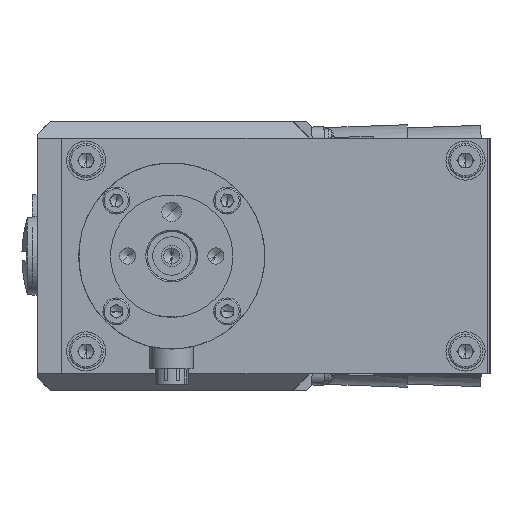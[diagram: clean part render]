
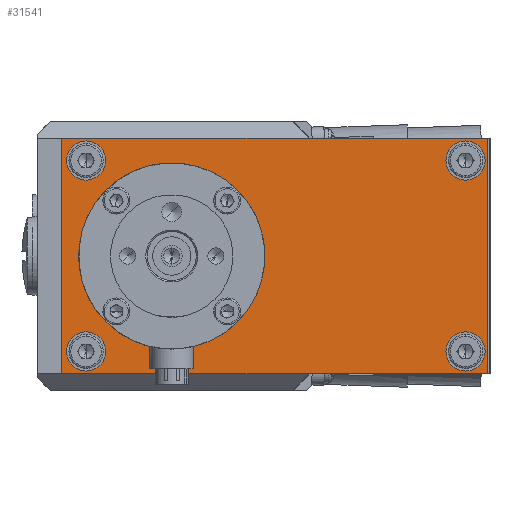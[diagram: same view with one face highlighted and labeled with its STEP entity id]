
A CAD part, left-side view. The second image highlights one B-rep face of the part: STEP entity #31541.
In plain terms, the highlighted planar face has unit normal (-1, 0, 0).
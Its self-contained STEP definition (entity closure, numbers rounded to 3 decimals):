
#35 = VERTEX_POINT ( 'NONE', #18627 ) ;
#552 = CIRCLE ( 'NONE', #66716, 4. ) ;
#1916 = CARTESIAN_POINT ( 'NONE',  ( -106.001, -27.621, -2.318 ) ) ;
#2034 = AXIS2_PLACEMENT_3D ( 'NONE', #56373, #62193, #35660 ) ;
#2378 = DIRECTION ( 'NONE',  ( -1., 0., 0. ) ) ;
#2799 = FACE_OUTER_BOUND ( 'NONE', #32510, .T. ) ;
#3202 = VERTEX_POINT ( 'NONE', #44117 ) ;
#4146 = ORIENTED_EDGE ( 'NONE', *, *, #62841, .T. ) ;
#5684 = DIRECTION ( 'NONE',  ( -1., 0., 0. ) ) ;
#6012 = FACE_BOUND ( 'NONE', #37094, .T. ) ;
#6124 = EDGE_LOOP ( 'NONE', ( #28443, #24928 ) ) ;
#6132 = EDGE_CURVE ( 'NONE', #22048, #64802, #62468, .T. ) ;
#6536 = LINE ( 'NONE', #58075, #21879 ) ;
#6748 = AXIS2_PLACEMENT_3D ( 'NONE', #1916, #7071, #12257 ) ;
#6840 = EDGE_LOOP ( 'NONE', ( #15270, #38200 ) ) ;
#7071 = DIRECTION ( 'NONE',  ( 1., 0., 0. ) ) ;
#7265 = EDGE_LOOP ( 'NONE', ( #41149, #62678 ) ) ;
#8091 = VERTEX_POINT ( 'NONE', #10618 ) ;
#8406 = CARTESIAN_POINT ( 'NONE',  ( -106.001, -23.121, 41.182 ) ) ;
#8961 = DIRECTION ( 'NONE',  ( 0., 0., 1. ) ) ;
#8974 = CARTESIAN_POINT ( 'NONE',  ( -106.001, -27.621, 45.682 ) ) ;
#10043 = AXIS2_PLACEMENT_3D ( 'NONE', #31636, #26291, #41545 ) ;
#10064 = CARTESIAN_POINT ( 'NONE',  ( -106.001, 59.379, 45.682 ) ) ;
#10112 = EDGE_CURVE ( 'NONE', #17920, #35, #552, .T. ) ;
#10600 = EDGE_CURVE ( 'NONE', #56178, #8091, #53619, .T. ) ;
#10618 = CARTESIAN_POINT ( 'NONE',  ( -106.001, -23.121, 37.182 ) ) ;
#10893 = VERTEX_POINT ( 'NONE', #13248 ) ;
#11819 = DIRECTION ( 'NONE',  ( -1., 0., 0. ) ) ;
#12038 = CARTESIAN_POINT ( 'NONE',  ( -106.001, 54.379, 41.182 ) ) ;
#12257 = DIRECTION ( 'NONE',  ( 0., 0., -1. ) ) ;
#12908 = VECTOR ( 'NONE', #31019, 1000. ) ;
#13042 = EDGE_CURVE ( 'NONE', #8091, #56178, #28296, .T. ) ;
#13094 = CIRCLE ( 'NONE', #24720, 15.5 ) ;
#13248 = CARTESIAN_POINT ( 'NONE',  ( -106.001, 36.879, 37.182 ) ) ;
#14477 = EDGE_CURVE ( 'NONE', #18860, #24761, #14534, .T. ) ;
#14534 = LINE ( 'NONE', #20731, #12908 ) ;
#14909 = ORIENTED_EDGE ( 'NONE', *, *, #41765, .F. ) ;
#15270 = ORIENTED_EDGE ( 'NONE', *, *, #44839, .F. ) ;
#15924 = EDGE_CURVE ( 'NONE', #65158, #21332, #47677, .T. ) ;
#16520 = FACE_BOUND ( 'NONE', #33238, .T. ) ;
#17920 = VERTEX_POINT ( 'NONE', #33979 ) ;
#18627 = CARTESIAN_POINT ( 'NONE',  ( -106.001, 54.379, 37.182 ) ) ;
#18860 = VERTEX_POINT ( 'NONE', #47532 ) ;
#19544 = CARTESIAN_POINT ( 'NONE',  ( -106.001, 36.879, 21.682 ) ) ;
#19745 = DIRECTION ( 'NONE',  ( 0., -1., 0. ) ) ;
#20049 = DIRECTION ( 'NONE',  ( -1., 0., 0. ) ) ;
#20731 = CARTESIAN_POINT ( 'NONE',  ( -106.001, 59.379, 45.682 ) ) ;
#21332 = VERTEX_POINT ( 'NONE', #59433 ) ;
#21513 = CARTESIAN_POINT ( 'NONE',  ( -106.001, -23.121, 2.182 ) ) ;
#21787 = EDGE_CURVE ( 'NONE', #51900, #10893, #53547, .T. ) ;
#21879 = VECTOR ( 'NONE', #21901, 1000. ) ;
#21901 = DIRECTION ( 'NONE',  ( 0., 0., -1. ) ) ;
#22048 = VERTEX_POINT ( 'NONE', #46745 ) ;
#22665 = EDGE_CURVE ( 'NONE', #21332, #65158, #57431, .T. ) ;
#24494 = DIRECTION ( 'NONE',  ( 0., 0., 1. ) ) ;
#24720 = AXIS2_PLACEMENT_3D ( 'NONE', #19544, #60412, #8961 ) ;
#24761 = VERTEX_POINT ( 'NONE', #10064 ) ;
#24928 = ORIENTED_EDGE ( 'NONE', *, *, #50966, .F. ) ;
#25475 = LINE ( 'NONE', #8974, #53624 ) ;
#25953 = CARTESIAN_POINT ( 'NONE',  ( -106.001, 36.879, 6.182 ) ) ;
#26291 = DIRECTION ( 'NONE',  ( -1., 0., 0. ) ) ;
#26690 = AXIS2_PLACEMENT_3D ( 'NONE', #21513, #27323, #62382 ) ;
#26810 = VERTEX_POINT ( 'NONE', #58132 ) ;
#27323 = DIRECTION ( 'NONE',  ( -1., 0., 0. ) ) ;
#28009 = DIRECTION ( 'NONE',  ( 0., 0., 1. ) ) ;
#28139 = CARTESIAN_POINT ( 'NONE',  ( -106.001, 36.879, 21.682 ) ) ;
#28296 = CIRCLE ( 'NONE', #57900, 4. ) ;
#28443 = ORIENTED_EDGE ( 'NONE', *, *, #6132, .F. ) ;
#31019 = DIRECTION ( 'NONE',  ( 0., 1., 0. ) ) ;
#31231 = ORIENTED_EDGE ( 'NONE', *, *, #60596, .T. ) ;
#31488 = CARTESIAN_POINT ( 'NONE',  ( -106.001, -23.121, 45.182 ) ) ;
#31541 = ADVANCED_FACE ( 'NONE', ( #6012, #57522, #16520, #54314, #63132, #2799 ), #33129, .F. ) ;
#31636 = CARTESIAN_POINT ( 'NONE',  ( -106.001, -23.121, 2.182 ) ) ;
#32032 = AXIS2_PLACEMENT_3D ( 'NONE', #28139, #33492, #64113 ) ;
#32510 = EDGE_LOOP ( 'NONE', ( #4146, #35230, #46440, #31231 ) ) ;
#33129 = PLANE ( 'NONE',  #6748 ) ;
#33238 = EDGE_LOOP ( 'NONE', ( #38385, #14909 ) ) ;
#33492 = DIRECTION ( 'NONE',  ( -1., 0., 0. ) ) ;
#33833 = CARTESIAN_POINT ( 'NONE',  ( -106.001, -23.121, -1.818 ) ) ;
#33979 = CARTESIAN_POINT ( 'NONE',  ( -106.001, 54.379, 45.182 ) ) ;
#34206 = AXIS2_PLACEMENT_3D ( 'NONE', #63773, #11819, #28009 ) ;
#34209 = ORIENTED_EDGE ( 'NONE', *, *, #15924, .F. ) ;
#35230 = ORIENTED_EDGE ( 'NONE', *, *, #14477, .T. ) ;
#35660 = DIRECTION ( 'NONE',  ( 0., 0., 1. ) ) ;
#35724 = DIRECTION ( 'NONE',  ( 0., 0., 1. ) ) ;
#36477 = CARTESIAN_POINT ( 'NONE',  ( -106.001, 54.379, 41.182 ) ) ;
#36696 = DIRECTION ( 'NONE',  ( 0., 0., 1. ) ) ;
#37094 = EDGE_LOOP ( 'NONE', ( #34209, #61187 ) ) ;
#38200 = ORIENTED_EDGE ( 'NONE', *, *, #21787, .F. ) ;
#38385 = ORIENTED_EDGE ( 'NONE', *, *, #10112, .F. ) ;
#39646 = CIRCLE ( 'NONE', #10043, 4. ) ;
#41149 = ORIENTED_EDGE ( 'NONE', *, *, #10600, .F. ) ;
#41545 = DIRECTION ( 'NONE',  ( 0., 0., 1. ) ) ;
#41765 = EDGE_CURVE ( 'NONE', #35, #17920, #47110, .T. ) ;
#43476 = VECTOR ( 'NONE', #19745, 1000. ) ;
#44117 = CARTESIAN_POINT ( 'NONE',  ( -106.001, 59.379, -2.318 ) ) ;
#44238 = CARTESIAN_POINT ( 'NONE',  ( -106.001, -27.621, -2.318 ) ) ;
#44839 = EDGE_CURVE ( 'NONE', #10893, #51900, #13094, .T. ) ;
#45414 = CARTESIAN_POINT ( 'NONE',  ( -106.001, -23.121, 41.182 ) ) ;
#45492 = AXIS2_PLACEMENT_3D ( 'NONE', #12038, #2378, #53653 ) ;
#46440 = ORIENTED_EDGE ( 'NONE', *, *, #51988, .T. ) ;
#46745 = CARTESIAN_POINT ( 'NONE',  ( -106.001, -23.121, 6.182 ) ) ;
#47110 = CIRCLE ( 'NONE', #45492, 4. ) ;
#47532 = CARTESIAN_POINT ( 'NONE',  ( -106.001, -27.621, 45.682 ) ) ;
#47677 = CIRCLE ( 'NONE', #2034, 4. ) ;
#50966 = EDGE_CURVE ( 'NONE', #64802, #22048, #39646, .T. ) ;
#51900 = VERTEX_POINT ( 'NONE', #25953 ) ;
#51988 = EDGE_CURVE ( 'NONE', #24761, #3202, #6536, .T. ) ;
#53460 = AXIS2_PLACEMENT_3D ( 'NONE', #45414, #20049, #35724 ) ;
#53547 = CIRCLE ( 'NONE', #32032, 15.5 ) ;
#53619 = CIRCLE ( 'NONE', #53460, 4. ) ;
#53624 = VECTOR ( 'NONE', #24494, 1000. ) ;
#53653 = DIRECTION ( 'NONE',  ( 0., 0., 1. ) ) ;
#54314 = FACE_BOUND ( 'NONE', #7265, .T. ) ;
#55638 = DIRECTION ( 'NONE',  ( -1., 0., 0. ) ) ;
#56178 = VERTEX_POINT ( 'NONE', #31488 ) ;
#56373 = CARTESIAN_POINT ( 'NONE',  ( -106.001, 54.379, 2.182 ) ) ;
#57144 = LINE ( 'NONE', #44238, #43476 ) ;
#57431 = CIRCLE ( 'NONE', #34206, 4. ) ;
#57522 = FACE_BOUND ( 'NONE', #6124, .T. ) ;
#57900 = AXIS2_PLACEMENT_3D ( 'NONE', #8406, #55638, #65499 ) ;
#58075 = CARTESIAN_POINT ( 'NONE',  ( -106.001, 59.379, -2.318 ) ) ;
#58132 = CARTESIAN_POINT ( 'NONE',  ( -106.001, -27.621, -2.318 ) ) ;
#59433 = CARTESIAN_POINT ( 'NONE',  ( -106.001, 54.379, -1.818 ) ) ;
#60412 = DIRECTION ( 'NONE',  ( -1., 0., 0. ) ) ;
#60596 = EDGE_CURVE ( 'NONE', #3202, #26810, #57144, .T. ) ;
#61187 = ORIENTED_EDGE ( 'NONE', *, *, #22665, .F. ) ;
#62193 = DIRECTION ( 'NONE',  ( -1., 0., 0. ) ) ;
#62382 = DIRECTION ( 'NONE',  ( 0., 0., 1. ) ) ;
#62468 = CIRCLE ( 'NONE', #26690, 4. ) ;
#62678 = ORIENTED_EDGE ( 'NONE', *, *, #13042, .F. ) ;
#62841 = EDGE_CURVE ( 'NONE', #26810, #18860, #25475, .T. ) ;
#63132 = FACE_BOUND ( 'NONE', #6840, .T. ) ;
#63773 = CARTESIAN_POINT ( 'NONE',  ( -106.001, 54.379, 2.182 ) ) ;
#64113 = DIRECTION ( 'NONE',  ( 0., 0., 1. ) ) ;
#64802 = VERTEX_POINT ( 'NONE', #33833 ) ;
#64964 = CARTESIAN_POINT ( 'NONE',  ( -106.001, 54.379, 6.182 ) ) ;
#65158 = VERTEX_POINT ( 'NONE', #64964 ) ;
#65499 = DIRECTION ( 'NONE',  ( 0., 0., 1. ) ) ;
#66716 = AXIS2_PLACEMENT_3D ( 'NONE', #36477, #5684, #36696 ) ;
